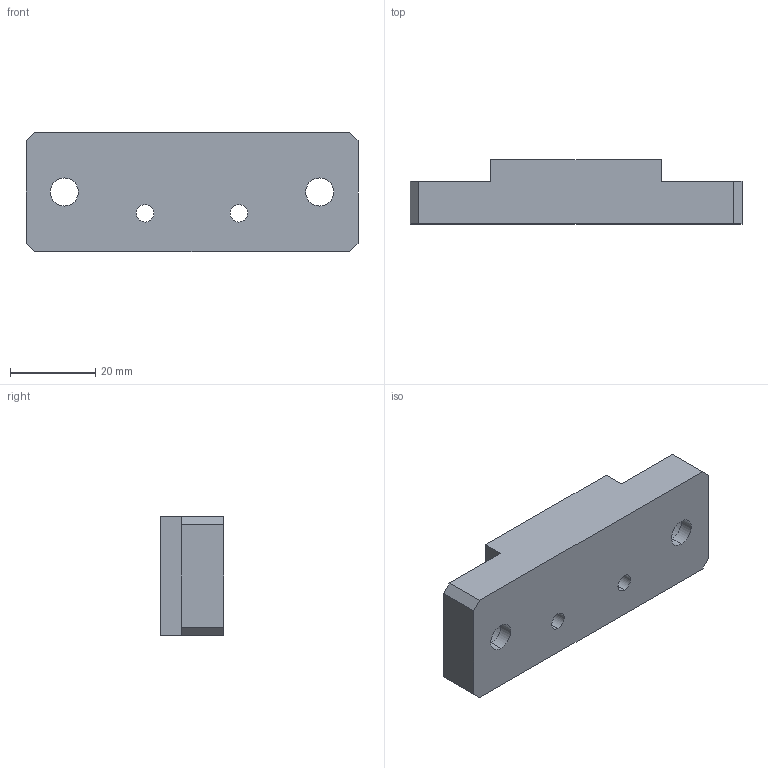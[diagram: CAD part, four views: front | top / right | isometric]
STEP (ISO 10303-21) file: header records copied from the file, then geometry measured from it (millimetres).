
FILE_DESCRIPTION (( 'STEP AP214' ), '1' );
FILE_NAME ('GZ30.16_V1气缸推板.STEP', '2021-06-06T13:55:44', ( 'hp' ), ( '' ), 'SwSTEP 2.0', 'SolidWorks 2017', '' );
FILE_SCHEMA (( 'AUTOMOTIVE_DESIGN' ));
Length unit declared in the file: millimetre
Products named in the file (1): GZ30.16_V1气缸推板
Bounding box: 78 x 15 x 28 mm (x, y, z)
Volume: 25445.9 mm3; surface area: 7906.9 mm2
Topology: 1 solids, 1 shells, 28 faces, 72 edges, 48 vertices
Faces by surface type: plane 16, cylinder 12
Entity records: 954 total; most frequent: DIRECTION 154, CARTESIAN_POINT 149, ORIENTED_EDGE 144, EDGE_CURVE 72, AXIS2_PLACEMENT_3D 53, VECTOR 48, LINE 48, VERTEX_POINT 48
